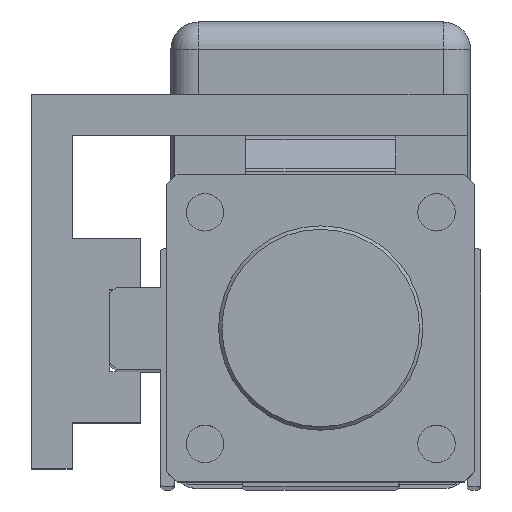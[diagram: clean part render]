
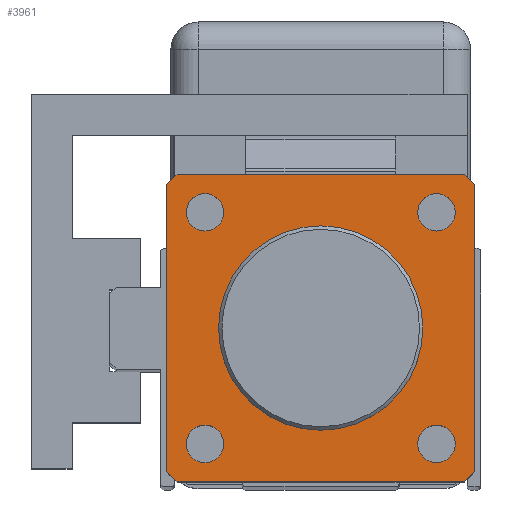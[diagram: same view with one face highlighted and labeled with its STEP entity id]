
A CAD part, top view. The second image highlights one B-rep face of the part: STEP entity #3961.
In plain terms, the highlighted planar face has unit normal (0, 0, 1).
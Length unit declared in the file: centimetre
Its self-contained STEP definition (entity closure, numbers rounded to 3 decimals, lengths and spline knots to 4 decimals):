
#515=VECTOR('',#5039,1.);
#518=VECTOR('',#5043,1.);
#520=VECTOR('',#5046,1.);
#523=VECTOR('',#5050,1.);
#526=VECTOR('',#5054,1.);
#529=VECTOR('',#5058,1.);
#533=VECTOR('',#5063,1.);
#536=VECTOR('',#5067,1.);
#823=LINE('',#6267,#515);
#826=LINE('',#6273,#518);
#828=LINE('',#6277,#520);
#831=LINE('',#6283,#523);
#834=LINE('',#6288,#526);
#837=LINE('',#6295,#529);
#841=LINE('',#6303,#533);
#844=LINE('',#6308,#536);
#1062=CIRCLE('',#4274,1.5);
#1075=CIRCLE('',#4298,0.275);
#1077=CIRCLE('',#4301,0.275);
#1078=CIRCLE('',#4303,0.275);
#1079=CIRCLE('',#4305,0.275);
#1427=VERTEX_POINT('',#6209);
#1454=VERTEX_POINT('',#6268);
#1455=VERTEX_POINT('',#6269);
#1456=VERTEX_POINT('',#6274);
#1457=VERTEX_POINT('',#6278);
#1459=VERTEX_POINT('',#6284);
#1460=VERTEX_POINT('',#6289);
#1463=VERTEX_POINT('',#6296);
#1466=VERTEX_POINT('',#6304);
#1467=VERTEX_POINT('',#6311);
#1469=VERTEX_POINT('',#6316);
#1470=VERTEX_POINT('',#6319);
#1471=VERTEX_POINT('',#6322);
#1879=EDGE_CURVE('',#1427,#1427,#1062,.T.);
#1908=EDGE_CURVE('',#1454,#1455,#823,.T.);
#1911=EDGE_CURVE('',#1455,#1456,#826,.T.);
#1913=EDGE_CURVE('',#1456,#1457,#828,.T.);
#1916=EDGE_CURVE('',#1457,#1459,#831,.T.);
#1919=EDGE_CURVE('',#1459,#1460,#834,.T.);
#1923=EDGE_CURVE('',#1460,#1463,#837,.T.);
#1927=EDGE_CURVE('',#1463,#1466,#841,.T.);
#1930=EDGE_CURVE('',#1466,#1454,#844,.T.);
#1931=EDGE_CURVE('',#1467,#1467,#1075,.T.);
#1933=EDGE_CURVE('',#1469,#1469,#1077,.T.);
#1934=EDGE_CURVE('',#1470,#1470,#1078,.T.);
#1935=EDGE_CURVE('',#1471,#1471,#1079,.T.);
#2749=ORIENTED_EDGE('',*,*,#1879,.T.);
#2750=ORIENTED_EDGE('',*,*,#1935,.F.);
#2751=ORIENTED_EDGE('',*,*,#1934,.F.);
#2752=ORIENTED_EDGE('',*,*,#1933,.F.);
#2753=ORIENTED_EDGE('',*,*,#1931,.F.);
#2754=ORIENTED_EDGE('',*,*,#1908,.F.);
#2755=ORIENTED_EDGE('',*,*,#1930,.F.);
#2756=ORIENTED_EDGE('',*,*,#1927,.F.);
#2757=ORIENTED_EDGE('',*,*,#1923,.F.);
#2758=ORIENTED_EDGE('',*,*,#1919,.F.);
#2759=ORIENTED_EDGE('',*,*,#1916,.F.);
#2760=ORIENTED_EDGE('',*,*,#1913,.F.);
#2761=ORIENTED_EDGE('',*,*,#1911,.F.);
#3384=EDGE_LOOP('',(#2749));
#3385=EDGE_LOOP('',(#2750));
#3386=EDGE_LOOP('',(#2751));
#3387=EDGE_LOOP('',(#2752));
#3388=EDGE_LOOP('',(#2753));
#3389=EDGE_LOOP('',(#2754,#2755,#2756,#2757,#2758,#2759,#2760,#2761));
#3713=FACE_BOUND('',#3384,.T.);
#3714=FACE_BOUND('',#3385,.T.);
#3715=FACE_BOUND('',#3386,.T.);
#3716=FACE_BOUND('',#3387,.T.);
#3717=FACE_BOUND('',#3388,.T.);
#3718=FACE_BOUND('',#3389,.T.);
#3961=ADVANCED_FACE('',(#3713,#3714,#3715,#3716,#3717,#3718),#6693,.T.);
#4274=AXIS2_PLACEMENT_3D('',#6208,#4994,#4995);
#4298=AXIS2_PLACEMENT_3D('',#6310,#5070,#5071);
#4301=AXIS2_PLACEMENT_3D('',#6315,#5076,#5077);
#4303=AXIS2_PLACEMENT_3D('',#6318,#5080,#5081);
#4305=AXIS2_PLACEMENT_3D('',#6321,#5084,#5085);
#4306=AXIS2_PLACEMENT_3D('',#6323,#5086,$);
#4994=DIRECTION('',(0.,0.,-1.));
#4995=DIRECTION('',(1.5,0.,0.));
#5039=DIRECTION('',(1.,0.,0.));
#5043=DIRECTION('',(0.707,-0.707,0.));
#5046=DIRECTION('',(0.,-1.,0.));
#5050=DIRECTION('',(-0.707,-0.707,0.));
#5054=DIRECTION('',(-1.,0.,0.));
#5058=DIRECTION('',(-0.707,0.707,0.));
#5063=DIRECTION('',(0.,1.,0.));
#5067=DIRECTION('',(0.707,0.707,0.));
#5070=DIRECTION('',(0.,0.,1.));
#5071=DIRECTION('',(0.275,0.,0.));
#5076=DIRECTION('',(0.,0.,1.));
#5077=DIRECTION('',(0.275,0.,0.));
#5080=DIRECTION('',(0.,0.,1.));
#5081=DIRECTION('',(0.275,0.,0.));
#5084=DIRECTION('',(0.,0.,1.));
#5085=DIRECTION('',(0.275,0.,0.));
#5086=DIRECTION('',(0.,0.,1.));
#6208=CARTESIAN_POINT('',(0.,0.,28.));
#6209=CARTESIAN_POINT('',(1.5,0.,28.));
#6267=CARTESIAN_POINT('',(2.11,2.26,28.));
#6268=CARTESIAN_POINT('',(-2.11,2.26,28.));
#6269=CARTESIAN_POINT('',(2.11,2.26,28.));
#6273=CARTESIAN_POINT('',(2.26,2.11,28.));
#6274=CARTESIAN_POINT('',(2.26,2.11,28.));
#6277=CARTESIAN_POINT('',(2.26,-2.11,28.));
#6278=CARTESIAN_POINT('',(2.26,-2.11,28.));
#6283=CARTESIAN_POINT('',(2.11,-2.26,28.));
#6284=CARTESIAN_POINT('',(2.11,-2.26,28.));
#6288=CARTESIAN_POINT('',(-2.11,-2.26,28.));
#6289=CARTESIAN_POINT('',(-2.11,-2.26,28.));
#6295=CARTESIAN_POINT('',(-2.26,-2.11,28.));
#6296=CARTESIAN_POINT('',(-2.26,-2.11,28.));
#6303=CARTESIAN_POINT('',(-2.26,2.11,28.));
#6304=CARTESIAN_POINT('',(-2.26,2.11,28.));
#6308=CARTESIAN_POINT('',(-2.11,2.26,28.));
#6310=CARTESIAN_POINT('',(-1.7,-1.7,28.));
#6311=CARTESIAN_POINT('',(-1.425,-1.7,28.));
#6315=CARTESIAN_POINT('',(-1.7,1.7,28.));
#6316=CARTESIAN_POINT('',(-1.425,1.7,28.));
#6318=CARTESIAN_POINT('',(1.7,1.7,28.));
#6319=CARTESIAN_POINT('',(1.975,1.7,28.));
#6321=CARTESIAN_POINT('',(1.7,-1.7,28.));
#6322=CARTESIAN_POINT('',(1.975,-1.7,28.));
#6323=CARTESIAN_POINT('',(0.,0.,28.));
#6693=PLANE('',#4306);
